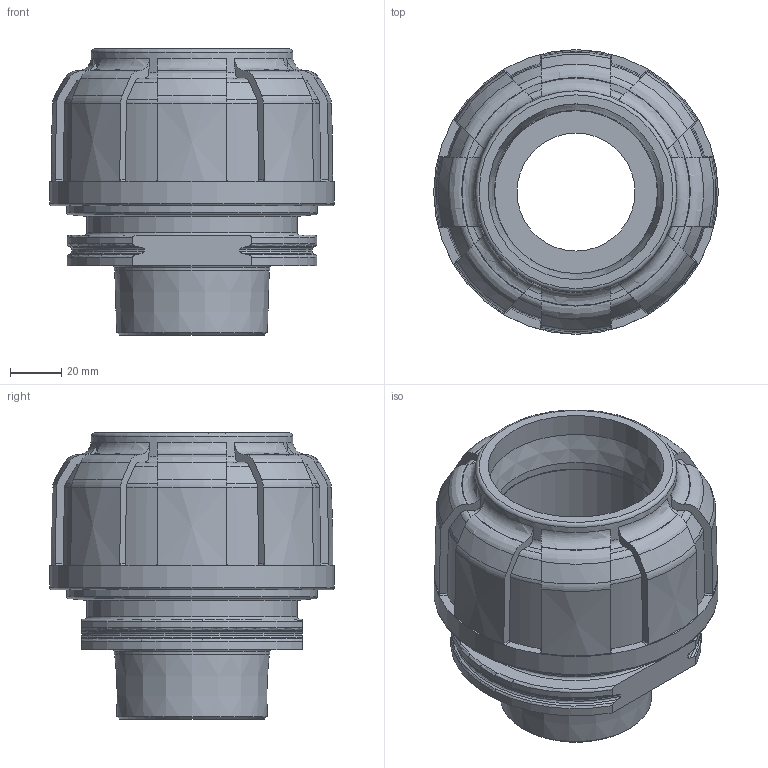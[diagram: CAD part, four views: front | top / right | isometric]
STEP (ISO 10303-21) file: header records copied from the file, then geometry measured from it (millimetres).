
FILE_DESCRIPTION( ( 'STEP AP214' ), '1' );
FILE_NAME( ' ', ' ', ( ' ' ), ( ' ' ), 'PSStep 11.0', 'VISI 17.0', ' ' );
FILE_SCHEMA( ( 'AUTOMOTIVE_DESIGN { 1 0 10303 214 1 1 1 1 }' ) );
Length unit declared in the file: millimetre
Products named in the file (2): 1; 2
Bounding box: 110.9 x 110.9 x 111.55 mm (x, y, z)
Volume: 424452.4 mm3; surface area: 100379 mm2
Topology: 2 solids, 2 shells, 297 faces, 837 edges, 556 vertices
Faces by surface type: plane 122, cone 69, torus 69, cylinder 37
Full cylindrical faces by diameter (mm): 60.5 x1, 63.87 x1, 64.4 x1, 68.449 x1, 82 x1, 85.4 x1, 86 x2, 86.393 x1, 90.9 x1, 91.6 x1, 93 x1, 97.6 x1, 99 x1, 110.9 x1
Entity records: 13233 total; most frequent: CARTESIAN_POINT 3763, ORIENTED_EDGE 1572, DIRECTION 1330, EDGE_CURVE 786, AXIS2_PLACEMENT_3D 577, VERTEX_POINT 540, EDGE_LOOP 348, B_SPLINE_CURVE_WITH_KNOTS 332
